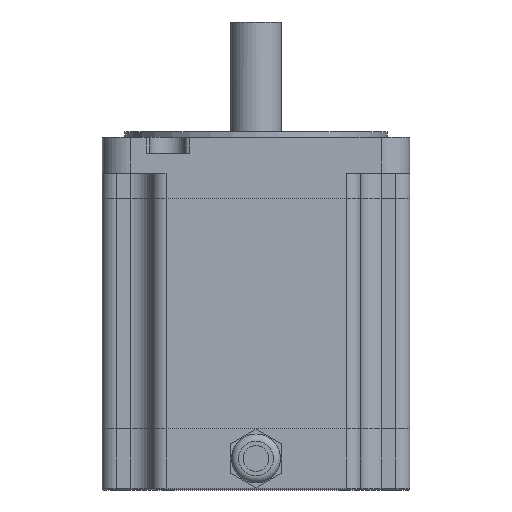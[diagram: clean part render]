
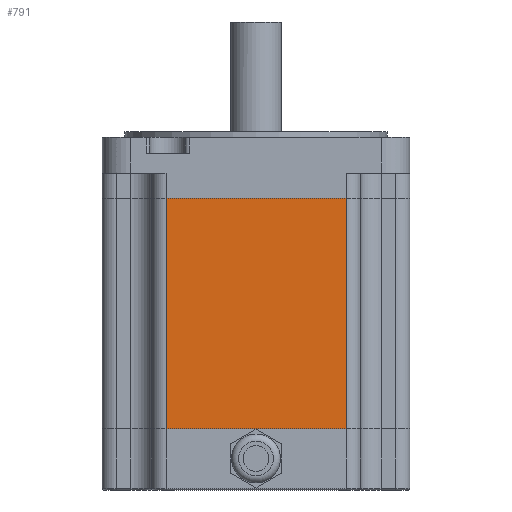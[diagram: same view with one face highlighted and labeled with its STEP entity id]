
A CAD part, front view. The second image highlights one B-rep face of the part: STEP entity #791.
In plain terms, the highlighted planar face has unit normal (0, -1, 0).
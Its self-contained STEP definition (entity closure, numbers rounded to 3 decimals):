
#791=ADVANCED_FACE('',(#1129),#992,.F.);
#992=PLANE('',#4548);
#1129=FACE_OUTER_BOUND('',#1369,.T.);
#1369=EDGE_LOOP('',(#2084,#2085,#2086,#2087));
#2084=ORIENTED_EDGE('',*,*,#3337,.F.);
#2085=ORIENTED_EDGE('',*,*,#3396,.T.);
#2086=ORIENTED_EDGE('',*,*,#3372,.F.);
#2087=ORIENTED_EDGE('',*,*,#3393,.T.);
#2877=VERTEX_POINT('',#6596);
#2878=VERTEX_POINT('',#6598);
#2912=VERTEX_POINT('',#6667);
#2913=VERTEX_POINT('',#6669);
#3337=EDGE_CURVE('',#2877,#2878,#3828,.T.);
#3372=EDGE_CURVE('',#2912,#2913,#3844,.T.);
#3393=EDGE_CURVE('',#2912,#2878,#3857,.T.);
#3396=EDGE_CURVE('',#2877,#2913,#3860,.T.);
#3828=LINE('',#6597,#4149);
#3844=LINE('',#6668,#4165);
#3857=LINE('',#6707,#4178);
#3860=LINE('',#6714,#4181);
#4149=VECTOR('',#5290,1.);
#4165=VECTOR('',#5346,1.);
#4178=VECTOR('',#5381,1.);
#4181=VECTOR('',#5392,1.);
#4548=AXIS2_PLACEMENT_3D('',#6725,#5408,#5409);
#5290=DIRECTION('',(-1.,0.,0.));
#5346=DIRECTION('',(1.,0.,0.));
#5381=DIRECTION('',(0.,0.,-1.));
#5392=DIRECTION('',(0.,0.,1.));
#5408=DIRECTION('',(0.,1.,0.));
#5409=DIRECTION('',(0.,0.,1.));
#6596=CARTESIAN_POINT('',(25.,-42.69,-81.));
#6597=CARTESIAN_POINT('',(34.75,-42.69,-81.));
#6598=CARTESIAN_POINT('',(-25.,-42.69,-81.));
#6667=CARTESIAN_POINT('',(-25.,-42.69,-17.));
#6668=CARTESIAN_POINT('',(34.75,-42.69,-17.));
#6669=CARTESIAN_POINT('',(25.,-42.69,-17.));
#6707=CARTESIAN_POINT('',(-25.,-42.69,-118.));
#6714=CARTESIAN_POINT('',(25.,-42.69,-118.));
#6725=CARTESIAN_POINT('',(34.75,-42.69,-118.));
